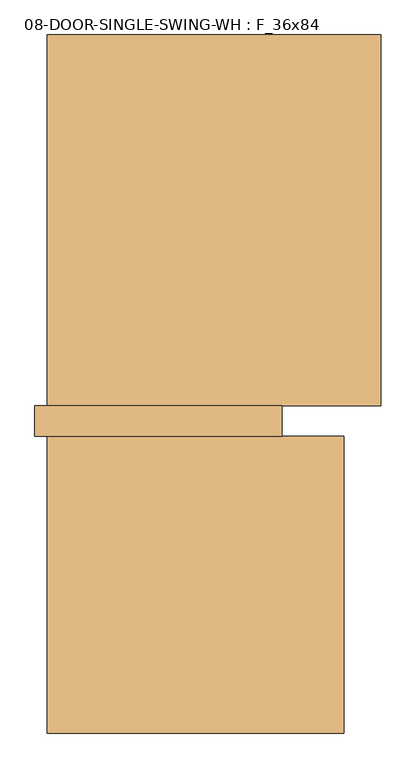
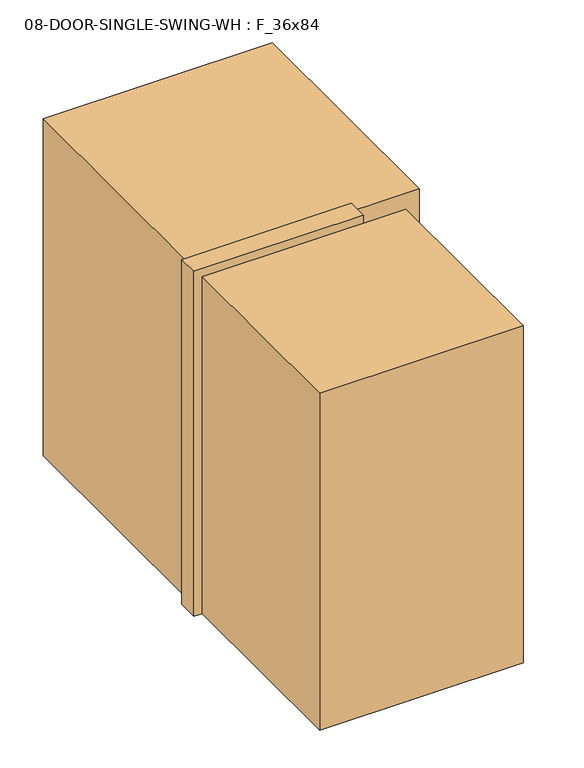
"""IFC4 building model written with IfcOpenShell, lengths in millimetres: door geometry, 08-DOOR-SINGLE-SWING-WH : F_36x84."""

from ifc_helpers import new_model, si_unit, point, frame, origin, origin_with_axes, place, context, project, spatial, polyline, circle_curve, ellipse_curve, trimmed, outline, extrude, source, transform, mapped, element, save
from ifc_brep_helpers import plane_surface, cylinder_surface, revolved_surface, advanced_brep


def door_08_door_single_swing_wh_f_36x84_1fa449c7(model_context):
    return source(origin(), model_context, "Body", "SolidModel", [
        extrude(outline(polyline([(-438.8346798, -1281.1125), (-438.8346798, -61.9125), (780.3653202, -61.9125), (780.3653202, -1281.1125), (-438.8346798, -1281.1125)])), origin_with_axes(), (0.0, 0.0, 1.0), 2133.6),
        extrude(outline(polyline([(-438.8346798, 1585.9125), (932.7653202, 1585.9125), (932.7653202, 61.9125), (-438.8346798, 61.9125), (-438.8346798, 1585.9125)])), origin_with_axes(), (0.0, 0.0, 1.0), 2133.6),
        advanced_brep(
        [(364.4403202, 4.7625, 1066.8), (383.4903202, 4.7625, 1066.8), (383.4903202, -46.0375, 1066.8), (364.4403202, -46.0375, 1066.8), (348.5653202, -61.9125, 1066.8), (348.5653202, -80.9625, 1066.8), (259.6653202, -61.9125, 1066.8), (259.6653202, -80.9625, 1066.8)],
        [
            (0, 1, circle_curve(frame((373.9653202, 4.7625, 1066.8), z_axis=(0.0, 1.0, 0.0), x_axis=(1.0, 0.0, 0.0)), 9.525)),
            (1, 0, circle_curve(frame((373.9653202, 4.7625, 1066.8), z_axis=(0.0, 1.0, 0.0), x_axis=(1.0, 0.0, 0.0)), 9.525)),
            (1, 2),
            (2, 3, circle_curve(frame((373.9653202, -46.0375, 1066.8), z_axis=(0.0, 1.0, 0.0), x_axis=(1.0, 0.0, 0.0)), 9.525)),
            (3, 0),
            (3, 2, circle_curve(frame((373.9653202, -46.0375, 1066.8), z_axis=(0.0, 1.0, 0.0), x_axis=(1.0, 0.0, 0.0)), 9.525)),
            (4, 3, circle_curve(frame((348.5653202, -46.0375, 1066.8), z_axis=(0.0, 0.0, 1.0), x_axis=(1.0, 0.0, 0.0)), 15.875)),
            (2, 5, circle_curve(frame((348.5653202, -46.0375, 1066.8), z_axis=(0.0, 0.0, -1.0), x_axis=(1.0, 0.0, 0.0)), 34.925)),
            (5, 4, circle_curve(frame((348.5653202, -71.4375, 1066.8), z_axis=(1.0, 0.0, 0.0), x_axis=(0.0, -1.0, 0.0)), 9.525)),
            (4, 5, circle_curve(frame((348.5653202, -71.4375, 1066.8), z_axis=(1.0, 0.0, 0.0), x_axis=(0.0, -1.0, 0.0)), 9.525)),
            (6, 7, circle_curve(frame((259.6653202, -71.4375, 1066.8), z_axis=(-1.0, 0.0, 0.0), x_axis=(0.0, -1.0, 0.0)), 9.525)),
            (7, 6, circle_curve(frame((259.6653202, -71.4375, 1066.8), z_axis=(-1.0, 0.0, 0.0), x_axis=(0.0, -1.0, 0.0)), 9.525)),
            (5, 7),
            (6, 4),
        ],
        [
            plane_surface(frame((373.9653202, 4.7625, 1066.8), z_axis=(0.0, 1.0, 0.0), x_axis=(0.0, 0.0, 1.0))),
            cylinder_surface(frame((373.9653202, 4.7625, 1066.8), z_axis=(0.0, 1.0, 0.0), x_axis=(1.0, 0.0, 0.0)), 9.525),
            revolved_surface(trimmed(ellipse_curve(frame((373.9653202, -46.0375, 1066.8), z_axis=(0.0, 1.0, 0.0), x_axis=(1.0, 0.0, 0.0)), 9.525, 9.525), [point((383.4903202, -46.0375, 1066.8))], [point((364.4403202, -46.0375, 1066.8))], True, "CARTESIAN"), (348.5653202, -46.0375, 1066.8), (0.0, 0.0, -1.0)),
            revolved_surface(trimmed(ellipse_curve(frame((373.9653202, -46.0375, 1066.8), z_axis=(0.0, 1.0, 0.0), x_axis=(1.0, 0.0, 0.0)), 9.525, 9.525), [point((364.4403202, -46.0375, 1066.8))], [point((383.4903202, -46.0375, 1066.8))], True, "CARTESIAN"), (348.5653202, -46.0375, 1066.8), (0.0, 0.0, -1.0)),
            plane_surface(frame((259.6653202, -71.4375, 1066.8), z_axis=(-1.0, 0.0, 0.0), x_axis=(0.0, 0.0, 1.0))),
            cylinder_surface(frame((348.5653202, -71.4375, 1066.8), z_axis=(1.0, 0.0, 0.0), x_axis=(0.0, -1.0, 0.0)), 9.525),
        ],
        [
            (0, [[1, 2]]),
            (1, [[-2, 3, 4, 5]]),
            (1, [[-1, -5, 6, -3]]),
            (2, [[7, -4, 8, 9]]),
            (3, [[-8, -6, -7, 10]]),
            (4, [[11, 12]]),
            (5, [[-9, 13, -11, 14]]),
            (5, [[-10, -14, -12, -13]]),
        ],
    ),
        advanced_brep(
        [(373.9653202, 17.4625, 1066.8), (405.7153202, 17.4625, 1066.8), (342.2153202, 17.4625, 1066.8), (405.7153202, 11.1125, 1066.8), (342.2153202, 11.1125, 1066.8), (386.6653202, 4.7625, 1066.8), (361.2653202, 4.7625, 1066.8), (373.9653202, 4.7625, 1066.8)],
        [
            (0, 1),
            (1, 2, circle_curve(frame((373.9653202, 17.4625, 1066.8), z_axis=(0.0, 1.0, 0.0), x_axis=(1.0, 0.0, 0.0)), 31.75)),
            (2, 0),
            (2, 1, circle_curve(frame((373.9653202, 17.4625, 1066.8), z_axis=(0.0, 1.0, 0.0), x_axis=(1.0, 0.0, 0.0)), 31.75)),
            (1, 3),
            (3, 4, circle_curve(frame((373.9653202, 11.1125, 1066.8), z_axis=(0.0, 1.0, 0.0), x_axis=(1.0, 0.0, 0.0)), 31.75)),
            (4, 2),
            (4, 3, circle_curve(frame((373.9653202, 11.1125, 1066.8), z_axis=(0.0, 1.0, 0.0), x_axis=(1.0, 0.0, 0.0)), 31.75)),
            (3, 5),
            (5, 6, circle_curve(frame((373.9653202, 4.7625, 1066.8), z_axis=(0.0, 1.0, 0.0), x_axis=(1.0, 0.0, 0.0)), 12.7)),
            (6, 4),
            (6, 5, circle_curve(frame((373.9653202, 4.7625, 1066.8), z_axis=(0.0, 1.0, 0.0), x_axis=(1.0, 0.0, 0.0)), 12.7)),
            (5, 7),
            (7, 6),
        ],
        [
            plane_surface(frame((373.9653202, 17.4625, 1066.8), z_axis=(0.0, 1.0, 0.0), x_axis=(1.0, 0.0, 0.0))),
            cylinder_surface(frame((373.9653202, 7.8543504, 1066.8), z_axis=(0.0, 1.0, 0.0), x_axis=(1.0, 0.0, 0.0)), 31.75),
            revolved_surface(polyline([(386.6653202, 4.7625, 1066.8), (405.7153202, 11.1125, 1066.8)]), (373.9653202, 7.8543504, 1066.8), (0.0, 1.0, 0.0)),
            plane_surface(frame((373.9653202, 4.7625, 1066.8), z_axis=(0.0, -1.0, 0.0), x_axis=(1.0, 0.0, 0.0))),
        ],
        [
            (0, [[1, 2, 3]]),
            (0, [[-3, 4, -1]]),
            (1, [[-2, 5, 6, 7]]),
            (1, [[-4, -7, 8, -5]]),
            (2, [[-6, 9, 10, 11]]),
            (2, [[-8, -11, 12, -9]]),
            (3, [[-10, 13, 14]]),
            (3, [[-12, -14, -13]]),
        ],
    ),
        advanced_brep(
        [(383.4903202, 74.6125, 1066.8), (364.4403202, 74.6125, 1066.8), (383.4903202, 125.4125, 1066.8), (364.4403202, 125.4125, 1066.8), (348.5653202, 141.2875, 1066.8), (348.5653202, 160.3375, 1066.8), (259.6653202, 160.3375, 1066.8), (259.6653202, 141.2875, 1066.8)],
        [
            (0, 1, circle_curve(frame((373.9653202, 74.6125, 1066.8), z_axis=(0.0, -1.0, 0.0), x_axis=(-1.0, 0.0, 0.0)), 9.525)),
            (1, 0, circle_curve(frame((373.9653202, 74.6125, 1066.8), z_axis=(0.0, -1.0, 0.0), x_axis=(-1.0, 0.0, 0.0)), 9.525)),
            (0, 2),
            (2, 3, circle_curve(frame((373.9653202, 125.4125, 1066.8), z_axis=(0.0, -1.0, 0.0), x_axis=(-1.0, 0.0, 0.0)), 9.525)),
            (3, 1),
            (3, 2, circle_curve(frame((373.9653202, 125.4125, 1066.8), z_axis=(0.0, -1.0, 0.0), x_axis=(-1.0, 0.0, 0.0)), 9.525)),
            (4, 3, circle_curve(frame((348.5653202, 125.4125, 1066.8), z_axis=(0.0, 0.0, -1.0), x_axis=(1.0, 0.0, 0.0)), 15.875)),
            (2, 5, circle_curve(frame((348.5653202, 125.4125, 1066.8), z_axis=(0.0, 0.0, 1.0), x_axis=(1.0, 0.0, 0.0)), 34.925)),
            (5, 4, circle_curve(frame((348.5653202, 150.8125, 1066.8), z_axis=(1.0, 0.0, 0.0), x_axis=(0.0, -1.0, 0.0)), 9.525)),
            (4, 5, circle_curve(frame((348.5653202, 150.8125, 1066.8), z_axis=(1.0, 0.0, 0.0), x_axis=(0.0, -1.0, 0.0)), 9.525)),
            (6, 7, circle_curve(frame((259.6653202, 150.8125, 1066.8), z_axis=(-1.0, 0.0, 0.0), x_axis=(0.0, -1.0, 0.0)), 9.525)),
            (7, 6, circle_curve(frame((259.6653202, 150.8125, 1066.8), z_axis=(-1.0, 0.0, 0.0), x_axis=(0.0, -1.0, 0.0)), 9.525)),
            (5, 6),
            (7, 4),
        ],
        [
            plane_surface(frame((373.9653202, 74.6125, 1066.8), z_axis=(0.0, -1.0, 0.0), x_axis=(0.0, 0.0, 1.0))),
            cylinder_surface(frame((373.9653202, 74.6125, 1066.8), z_axis=(0.0, -1.0, 0.0), x_axis=(-1.0, 0.0, 0.0)), 9.525),
            revolved_surface(trimmed(ellipse_curve(frame((373.9653202, 125.4125, 1066.8), z_axis=(0.0, -1.0, 0.0), x_axis=(-1.0, 0.0, 0.0)), 9.525, 9.525), [point((383.4903202, 125.4125, 1066.8))], [point((364.4403202, 125.4125, 1066.8))], True, "CARTESIAN"), (348.5653202, 125.4125, 1066.8), (0.0, 0.0, 1.0)),
            revolved_surface(trimmed(ellipse_curve(frame((373.9653202, 125.4125, 1066.8), z_axis=(0.0, -1.0, 0.0), x_axis=(-1.0, 0.0, 0.0)), 9.525, 9.525), [point((364.4403202, 125.4125, 1066.8))], [point((383.4903202, 125.4125, 1066.8))], True, "CARTESIAN"), (348.5653202, 125.4125, 1066.8), (0.0, 0.0, 1.0)),
            plane_surface(frame((259.6653202, 150.8125, 1066.8), z_axis=(-1.0, 0.0, 0.0), x_axis=(0.0, 0.0, 1.0))),
            cylinder_surface(frame((348.5653202, 150.8125, 1066.8), z_axis=(1.0, 0.0, 0.0), x_axis=(0.0, -1.0, 0.0)), 9.525),
        ],
        [
            (0, [[1, 2]]),
            (1, [[-1, 3, 4, 5]]),
            (1, [[-2, -5, 6, -3]]),
            (2, [[7, -4, 8, 9]]),
            (3, [[-8, -6, -7, 10]]),
            (4, [[11, 12]]),
            (5, [[-9, 13, -12, 14]]),
            (5, [[-10, -14, -11, -13]]),
        ],
    ),
        advanced_brep(
        [(342.2153202, 61.9125, 1066.8), (405.7153202, 61.9125, 1066.8), (373.9653202, 61.9125, 1066.8), (342.2153202, 68.2625, 1066.8), (405.7153202, 68.2625, 1066.8), (361.2653202, 74.6125, 1066.8), (386.6653202, 74.6125, 1066.8), (373.9653202, 74.6125, 1066.8)],
        [
            (0, 1, circle_curve(frame((373.9653202, 61.9125, 1066.8), z_axis=(0.0, -1.0, 0.0), x_axis=(1.0, 0.0, 0.0)), 31.75)),
            (1, 2),
            (2, 0),
            (1, 0, circle_curve(frame((373.9653202, 61.9125, 1066.8), z_axis=(0.0, -1.0, 0.0), x_axis=(1.0, 0.0, 0.0)), 31.75)),
            (3, 4, circle_curve(frame((373.9653202, 68.2625, 1066.8), z_axis=(0.0, -1.0, 0.0), x_axis=(1.0, 0.0, 0.0)), 31.75)),
            (4, 1),
            (0, 3),
            (4, 3, circle_curve(frame((373.9653202, 68.2625, 1066.8), z_axis=(0.0, -1.0, 0.0), x_axis=(1.0, 0.0, 0.0)), 31.75)),
            (5, 6, circle_curve(frame((373.9653202, 74.6125, 1066.8), z_axis=(0.0, -1.0, 0.0), x_axis=(1.0, 0.0, 0.0)), 12.7)),
            (6, 4),
            (3, 5),
            (6, 5, circle_curve(frame((373.9653202, 74.6125, 1066.8), z_axis=(0.0, -1.0, 0.0), x_axis=(1.0, 0.0, 0.0)), 12.7)),
            (7, 6),
            (5, 7),
        ],
        [
            plane_surface(frame((373.9653202, 61.9125, 1066.8), z_axis=(0.0, -1.0, 0.0), x_axis=(1.0, 0.0, 0.0))),
            cylinder_surface(frame((373.9653202, 71.5206496, 1066.8), z_axis=(0.0, 1.0, 0.0), x_axis=(1.0, 0.0, 0.0)), 31.75),
            revolved_surface(polyline([(405.7153202, 68.2625, 1066.8), (386.6653202, 74.6125, 1066.8)]), (373.9653202, 71.5206496, 1066.8), (0.0, 1.0, 0.0)),
            plane_surface(frame((373.9653202, 74.6125, 1066.8), z_axis=(0.0, 1.0, 0.0), x_axis=(1.0, 0.0, 0.0))),
        ],
        [
            (0, [[1, 2, 3]]),
            (0, [[4, -3, -2]]),
            (1, [[5, 6, -1, 7]]),
            (1, [[8, -7, -4, -6]]),
            (2, [[9, 10, -5, 11]]),
            (2, [[12, -11, -8, -10]]),
            (3, [[13, -9, 14]]),
            (3, [[-14, -12, -13]]),
        ],
    ),
        extrude(outline(polyline([(475.5653202, 17.4625), (-438.8346798, 17.4625), (-438.8346798, 61.9125), (475.5653202, 61.9125), (475.5653202, 17.4625)])), frame((0.0, 0.0, 12.7), z_axis=(0.0, 0.0, 1.0), x_axis=(1.0, 0.0, 0.0)), (0.0, 0.0, 1.0), 2120.9),
        extrude(outline(polyline([(0.0, 475.5653202), (0.0, 526.3653202), (2184.4, 526.3653202), (2184.4, -489.6346798), (0.0, -489.6346798), (0.0, -438.8346798), (2133.6, -438.8346798), (2133.6, 475.5653202), (0.0, 475.5653202)])), frame((0.0, -61.9125, 0.0), z_axis=(0.0, 1.0, 0.0), x_axis=(0.0, 0.0, 1.0)), (0.0, 0.0, 1.0), 123.825),
    ])


if __name__ == "__main__":
    model = new_model("IFC4")
    model_context = context("Model", 3, world=origin())
    ifc_project = project(units=[si_unit("LENGTHUNIT", "METRE", prefix="MILLI")], contexts=[model_context])
    site = spatial("IfcSite", under=ifc_project)
    building = spatial("IfcBuilding", under=site)
    placement = place(None, origin())
    door_08_door_single_swing_wh_f_36x84_shape = door_08_door_single_swing_wh_f_36x84_1fa449c7(model_context)
    element("IfcDoor", 1, ObjectType="08-DOOR-SINGLE-SWING-WH : F_36x84", at=placement, inside=building, context=model_context, shape_type="MappedRepresentation", body=[
        mapped(door_08_door_single_swing_wh_f_36x84_shape, transform((0.0, 0.0, 0.0), x_axis=(1.0, 0.0, 0.0), y_axis=(0.0, 1.0, 0.0), z_axis=(0.0, 0.0, 1.0))),
    ])
    save(model, "model.ifc")
